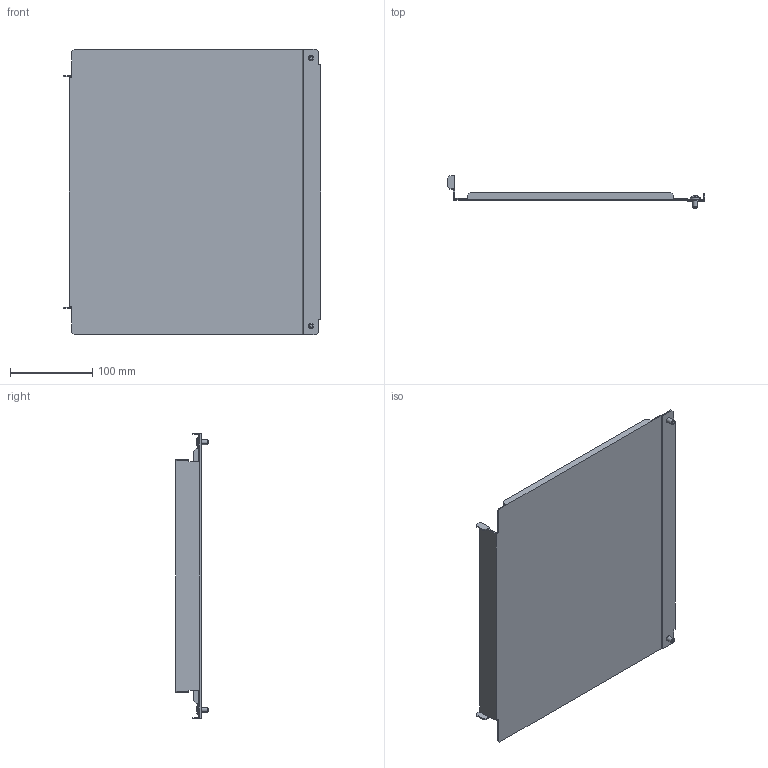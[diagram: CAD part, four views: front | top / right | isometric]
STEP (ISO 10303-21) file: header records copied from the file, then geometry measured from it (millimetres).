
FILE_DESCRIPTION (( 'STEP AP214' ), '1' );
FILE_NAME ('FO-00-PVHC-040 Ïåðåãîðîäêà àïïàðàòíîãî îòñåêà áîêîâàÿ âåðòèêàëüíàÿ ñïëîøíàÿ âûñîòà 400 ìì.STEP', '2025-08-18T06:37:07', ( '' ), ( '' ), 'SwSTEP 2.0', 'SolidWorks 2023', '' );
FILE_SCHEMA (( 'AUTOMOTIVE_DESIGN' ));
Length unit declared in the file: millimetre
Products named in the file (1): FO-00-PVHC-040 Перегородка аппаратного отсека боковая вертикальная сплошная высота 400 мм
Bounding box: 312.84 x 38.98 x 347 mm (x, y, z)
Volume: 180550.6 mm3; surface area: 242037.2 mm2
Topology: 1 solids, 1 shells, 130 faces, 360 edges, 236 vertices
Faces by surface type: plane 76, cylinder 42, torus 4, cone 4, sphere 4
Entity records: 4207 total; most frequent: CARTESIAN_POINT 861, ORIENTED_EDGE 720, DIRECTION 658, EDGE_CURVE 360, LINE 256, VECTOR 256, VERTEX_POINT 236, AXIS2_PLACEMENT_3D 201
